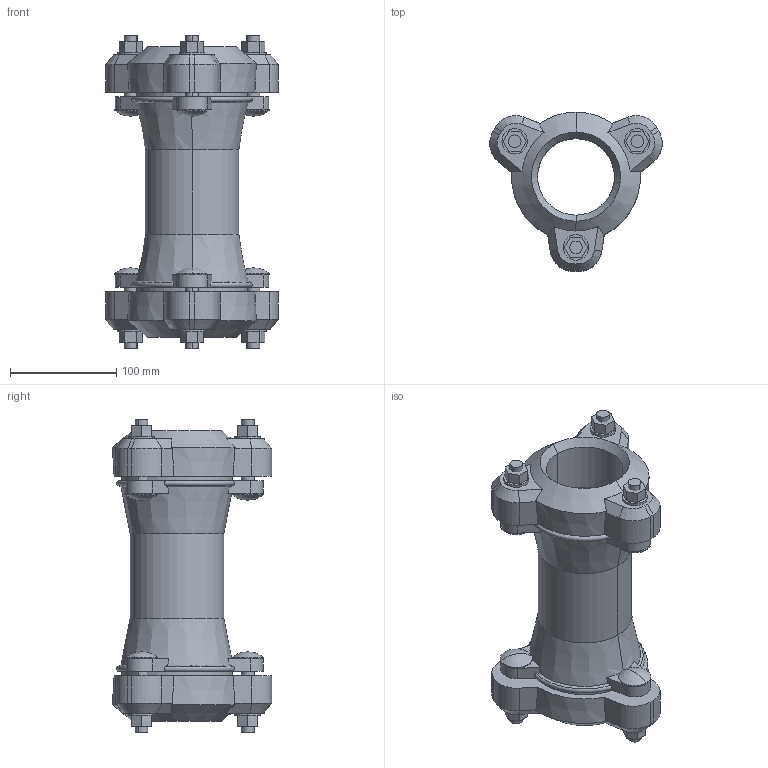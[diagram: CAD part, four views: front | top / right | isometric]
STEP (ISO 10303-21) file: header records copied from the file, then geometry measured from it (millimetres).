
FILE_DESCRIPTION((''),'2;1');
FILE_NAME('BIM_13198_2_ASM','2019-04-09T',('MReader'),(''),'CREO PARAMETRIC BY PTC INC, 2016130','CREO PARAMETRIC BY PTC INC, 2016130','');
FILE_SCHEMA(('CONFIG_CONTROL_DESIGN'));
Length unit declared in the file: millimetre
Products named in the file (3): BIM_13026_10; BIM_13230_3; BIM_13198_2_ASM
Assembly tree (3 placements, depth 2):
  BIM_13198_2_ASM
    BIM_13026_10
    BIM_13230_3  x2
Bounding box: 162.5 x 150.03 x 296 mm (x, y, z)
Volume: 1299986.6 mm3; surface area: 250752 mm2
Topology: 3 solids, 3 shells, 266 faces, 674 edges, 416 vertices
Faces by surface type: plane 128, cylinder 70, cone 52, sphere 12, torus 4
Entity records: 6007 total; most frequent: CARTESIAN_POINT 1347, DIRECTION 1001, ORIENTED_EDGE 944, EDGE_CURVE 472, AXIS2_PLACEMENT_3D 392, VERTEX_POINT 296, VECTOR 217, LINE 217
